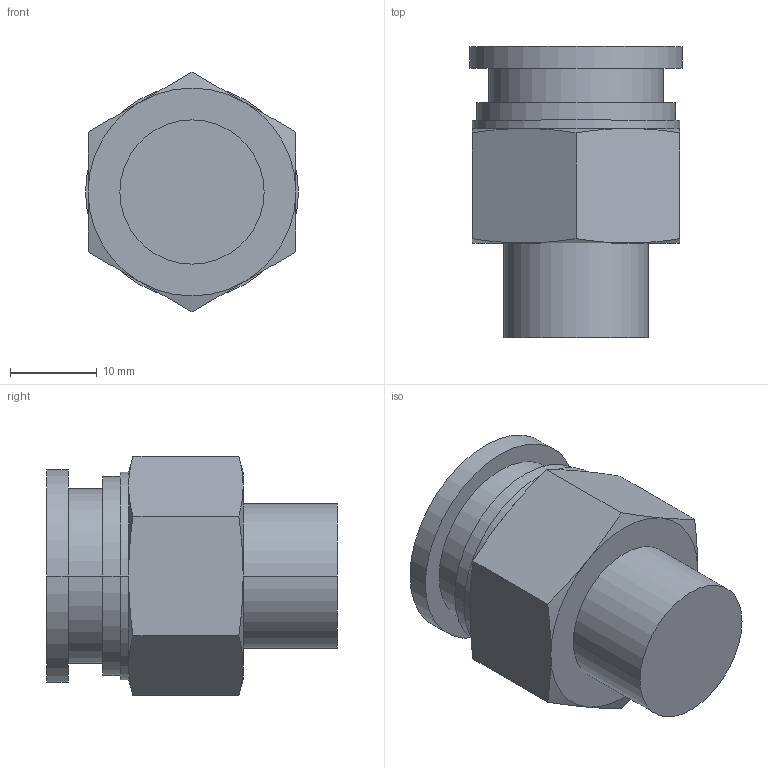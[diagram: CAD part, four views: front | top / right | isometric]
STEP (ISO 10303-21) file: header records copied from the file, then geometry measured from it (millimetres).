
FILE_DESCRIPTION( ( '' ), '1' );
FILE_NAME( 'G:/SMC狟婥/KQB2H16-03S.stp', '2023-03-07T02:29:49', ( '' ), ( '' ), ' ', ' ', ' ' );
FILE_SCHEMA( ( 'CONFIG_CONTROL_DESIGN' ) );
Length unit declared in the file: millimetre
Products named in the file (1): 1
Bounding box: 24.6 x 33.6 x 27.71 mm (x, y, z)
Volume: 8507 mm3; surface area: 4667.9 mm2
Topology: 1 solids, 1 shells, 37 faces, 76 edges, 46 vertices
Faces by surface type: plane 13, cylinder 12, cone 12
Entity records: 992 total; most frequent: CARTESIAN_POINT 208, DIRECTION 162, ORIENTED_EDGE 152, EDGE_CURVE 76, AXIS2_PLACEMENT_3D 72, VERTEX_POINT 46, EDGE_LOOP 42, ADVANCED_FACE 37
